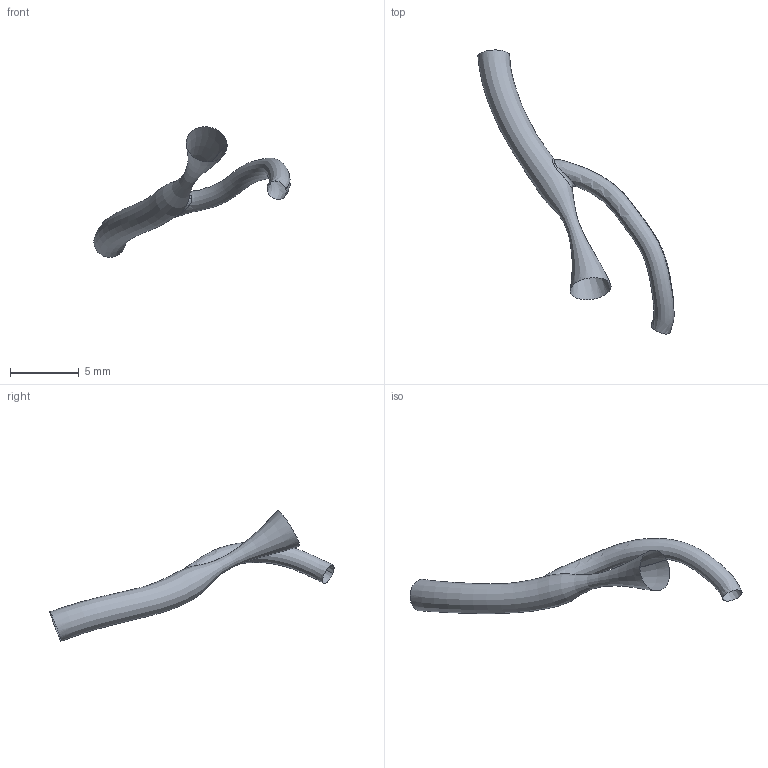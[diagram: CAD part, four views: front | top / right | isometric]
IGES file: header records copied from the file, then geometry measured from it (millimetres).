
Global section: file name: C:\Documents and Settings\Administrator\Desktop\FDA Bifurcation win\RawData_for_IGES\HRCA_Data\20010926.103228\IGES\20010926.103228.RM2.BIFUR.ED.igs; native system: Rhinoceros ( May 19 2006 ); preprocessor: Trout Lake IGES 012 May 19 2006; date: 100728.212623; units: centimetre
Bounding box: 14.24 x 20.62 x 9.49 mm (x, y, z)
Surface area: 196.8 mm2 (no closed solid volume)
Topology: 0 solids, 0 shells, 5 faces, 48 edges, 45 vertices
Faces by surface type: bspline 5
